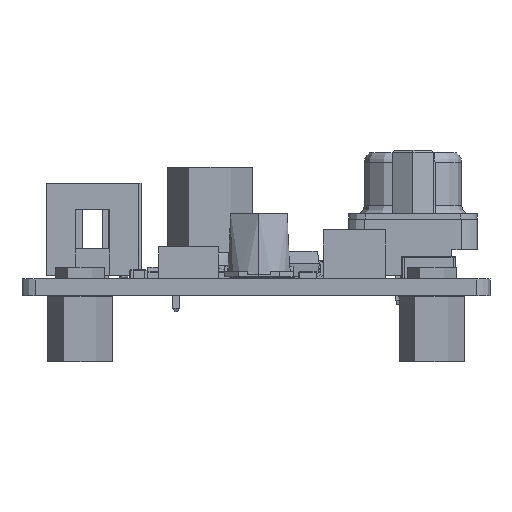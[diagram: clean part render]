
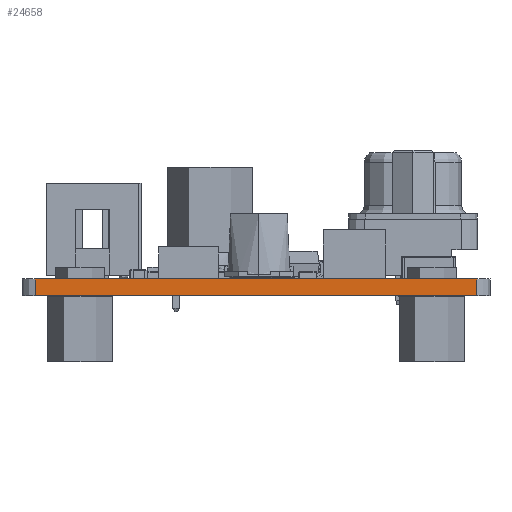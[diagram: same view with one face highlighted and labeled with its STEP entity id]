
A CAD part, front view. The second image highlights one B-rep face of the part: STEP entity #24658.
In plain terms, the highlighted planar face has unit normal (0, -1, 0).
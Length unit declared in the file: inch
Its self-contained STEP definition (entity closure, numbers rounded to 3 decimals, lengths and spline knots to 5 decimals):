
#1143 = VERTEX_POINT ( 'NONE', #27766 ) ;
#7824 = VERTEX_POINT ( 'NONE', #39398 ) ;
#7889 = LINE ( 'NONE', #138815, #144818 ) ;
#13279 = DIRECTION ( 'NONE',  ( -1., 0., 0. ) ) ;
#15187 = EDGE_CURVE ( 'NONE', #132867, #7824, #112878, .T. ) ;
#19945 = DIRECTION ( 'NONE',  ( 0., 0., 1. ) ) ;
#24658 = ADVANCED_FACE ( 'NONE', ( #42316 ), #100342, .T. ) ;
#24925 = LINE ( 'NONE', #72193, #97114 ) ;
#27766 = CARTESIAN_POINT ( 'NONE',  ( 1.7, 0., 0. ) ) ;
#29221 = DIRECTION ( 'NONE',  ( 0., -1., 0. ) ) ;
#29428 = EDGE_CURVE ( 'NONE', #34049, #132867, #136750, .T. ) ;
#32010 = ORIENTED_EDGE ( 'NONE', *, *, #29428, .F. ) ;
#32931 = DIRECTION ( 'NONE',  ( -1., 0., 0. ) ) ;
#34049 = VERTEX_POINT ( 'NONE', #34053 ) ;
#34053 = CARTESIAN_POINT ( 'NONE',  ( 1.7, 0., -0.063 ) ) ;
#39398 = CARTESIAN_POINT ( 'NONE',  ( 0.02, 0., 0. ) ) ;
#42316 = FACE_OUTER_BOUND ( 'NONE', #49613, .T. ) ;
#49613 = EDGE_LOOP ( 'NONE', ( #50624, #103053, #138583, #32010 ) ) ;
#50624 = ORIENTED_EDGE ( 'NONE', *, *, #102331, .T. ) ;
#64902 = CARTESIAN_POINT ( 'NONE',  ( 0.02, 0., -0.063 ) ) ;
#67920 = CARTESIAN_POINT ( 'NONE',  ( 0.02, 0., -0.063 ) ) ;
#72193 = CARTESIAN_POINT ( 'NONE',  ( 1.67, 0., 0. ) ) ;
#74961 = CARTESIAN_POINT ( 'NONE',  ( 1.67, 0., -0.063 ) ) ;
#77851 = CARTESIAN_POINT ( 'NONE',  ( 1.67, 0., -0.063 ) ) ;
#78335 = EDGE_CURVE ( 'NONE', #1143, #7824, #24925, .T. ) ;
#97114 = VECTOR ( 'NONE', #13279, 39.37008 ) ;
#98092 = DIRECTION ( 'NONE',  ( -1., 0., 0. ) ) ;
#100342 = PLANE ( 'NONE',  #144632 ) ;
#102331 = EDGE_CURVE ( 'NONE', #34049, #1143, #7889, .T. ) ;
#103053 = ORIENTED_EDGE ( 'NONE', *, *, #78335, .T. ) ;
#103768 = VECTOR ( 'NONE', #32931, 39.37008 ) ;
#112878 = LINE ( 'NONE', #67920, #122081 ) ;
#117071 = DIRECTION ( 'NONE',  ( 0., 0., 1. ) ) ;
#122081 = VECTOR ( 'NONE', #19945, 39.37008 ) ;
#132867 = VERTEX_POINT ( 'NONE', #64902 ) ;
#136750 = LINE ( 'NONE', #77851, #103768 ) ;
#138583 = ORIENTED_EDGE ( 'NONE', *, *, #15187, .F. ) ;
#138815 = CARTESIAN_POINT ( 'NONE',  ( 1.7, 0., -0.063 ) ) ;
#144632 = AXIS2_PLACEMENT_3D ( 'NONE', #74961, #29221, #98092 ) ;
#144818 = VECTOR ( 'NONE', #117071, 39.37008 ) ;
